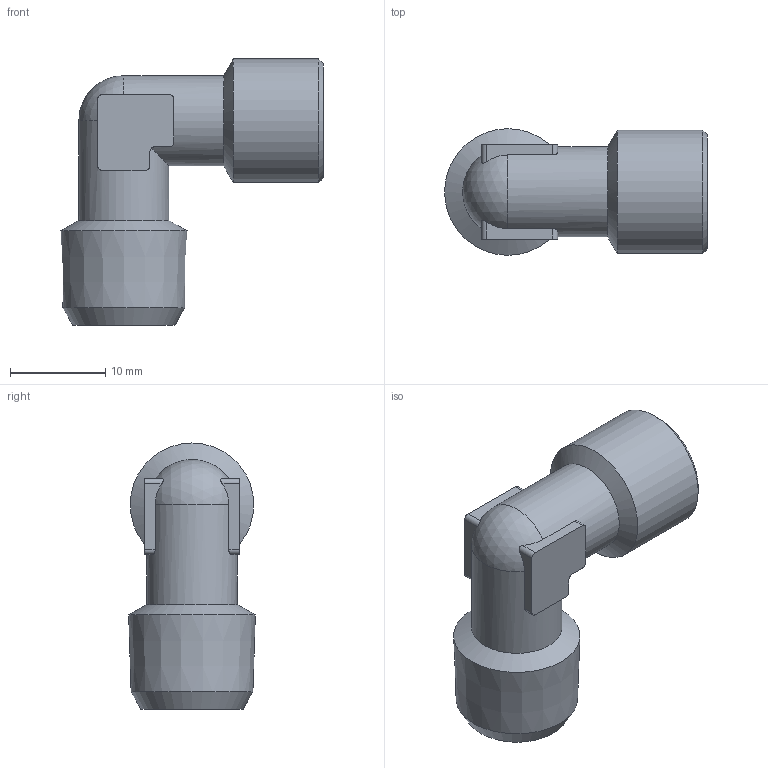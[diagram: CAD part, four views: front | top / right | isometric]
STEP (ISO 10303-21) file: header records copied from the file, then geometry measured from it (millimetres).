
FILE_DESCRIPTION(/* description */ (''),/* implementation_level */ '2;1');
FILE_NAME(/* name */ '50208_110_R14_G18_26.09.16',/* time_stamp */ '2016-09-26T10:37:29+02:00',/* author */ (''),/* organization */ (''),/* preprocessor_version */ 'ST-DEVELOPER v16.5',/* originating_system */ 'HiCAD 2016 2101.0 Build 254',/* authorisation */ '');
FILE_SCHEMA (('AUTOMOTIVE_DESIGN { 1 0 10303 214 1 1 1 1 }'));
Length unit declared in the file: millimetre
Products named in the file (2): Root; 50208
Assembly tree (1 placements, depth 2):
  Root
    50208
Bounding box: 27.66 x 13.32 x 28 mm (x, y, z)
Volume: 2624 mm3; surface area: 2643.7 mm2
Topology: 1 solids, 1 shells, 52 faces, 142 edges, 92 vertices
Faces by surface type: cylinder 22, plane 16, cone 13, sphere 1
Full cylindrical faces by diameter (mm): 6 x2, 8 x1, 8.566 x1, 9.5 x2, 13 x1
Entity records: 5808 total; most frequent: CARTESIAN_POINT 3390, DIRECTION 250, PRESENTATION_STYLE_ASSIGNMENT 241, COLOUR_RGB 241, DRAUGHTING_PRE_DEFINED_CURVE_FONT 240, CURVE_STYLE 240, OVER_RIDING_STYLED_ITEM 240, ORIENTED_EDGE 240
